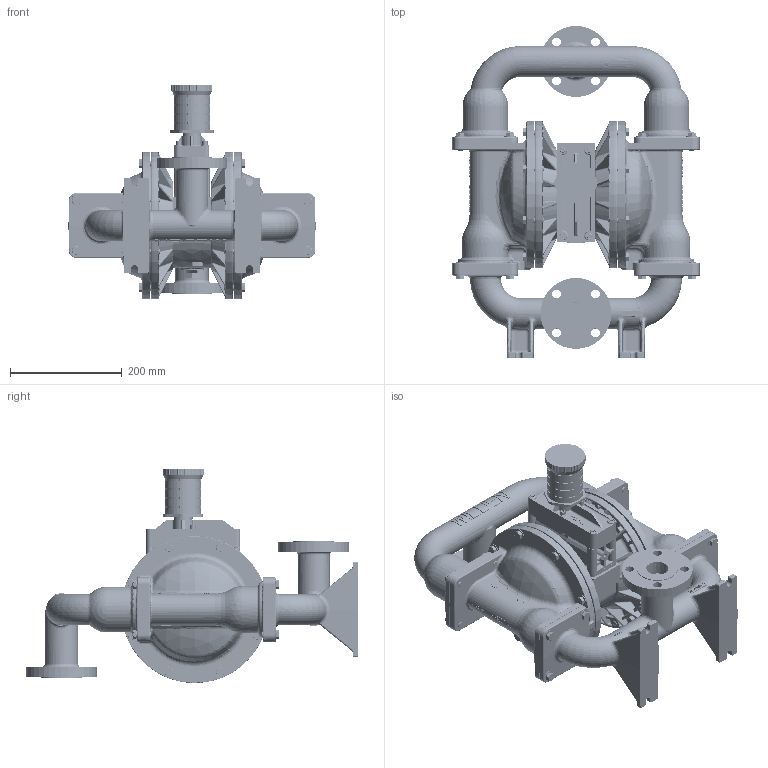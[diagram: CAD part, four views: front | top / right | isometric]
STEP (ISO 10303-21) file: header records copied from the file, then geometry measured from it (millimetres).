
FILE_DESCRIPTION (( 'STEP AP203' ), '1' );
FILE_NAME ('P430_Alum_Top_ANSI.STEP', '2022-07-05T07:16:24', ( '' ), ( '' ), 'SwSTEP 2.0', 'SolidWorks 2019', '' );
FILE_SCHEMA (( 'CONFIG_CONTROL_DESIGN' ));
Products named in the file (1): P430_Alum_Top_ANSI
Bounding box: 442.46 x 594.39 x 384.43 mm (x, y, z)
Volume: 15074757.4 mm3; surface area: 1109079.6 mm2
Topology: 1 solids, 1 shells, 9806 faces, 24410 edges, 14914 vertices
Faces by surface type: plane 4253, bspline 2218, cylinder 1402, cone 790, torus 780, sphere 363
Entity records: 539341 total; most frequent: CARTESIAN_POINT 326565, ORIENTED_EDGE 48732, DIRECTION 38252, EDGE_CURVE 24366, VERTEX_POINT 14901, AXIS2_PLACEMENT_3D 13994, VECTOR 10264, LINE 10264
